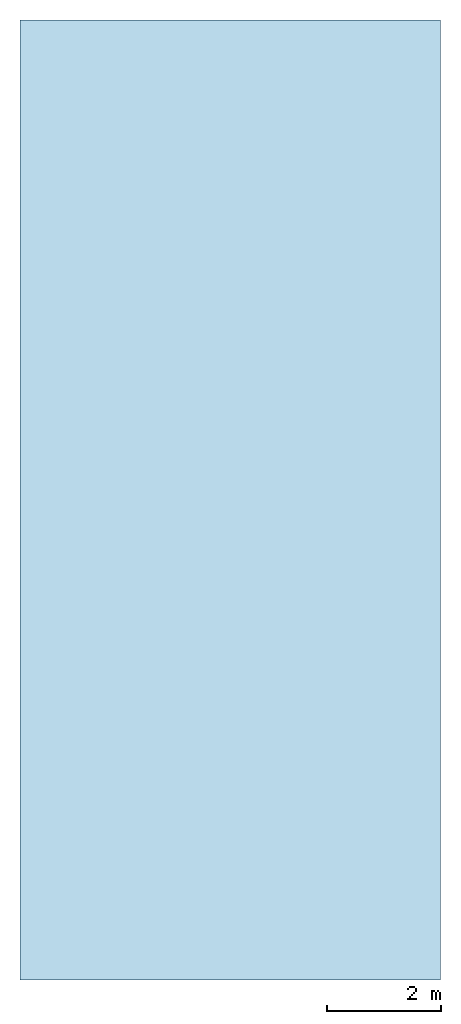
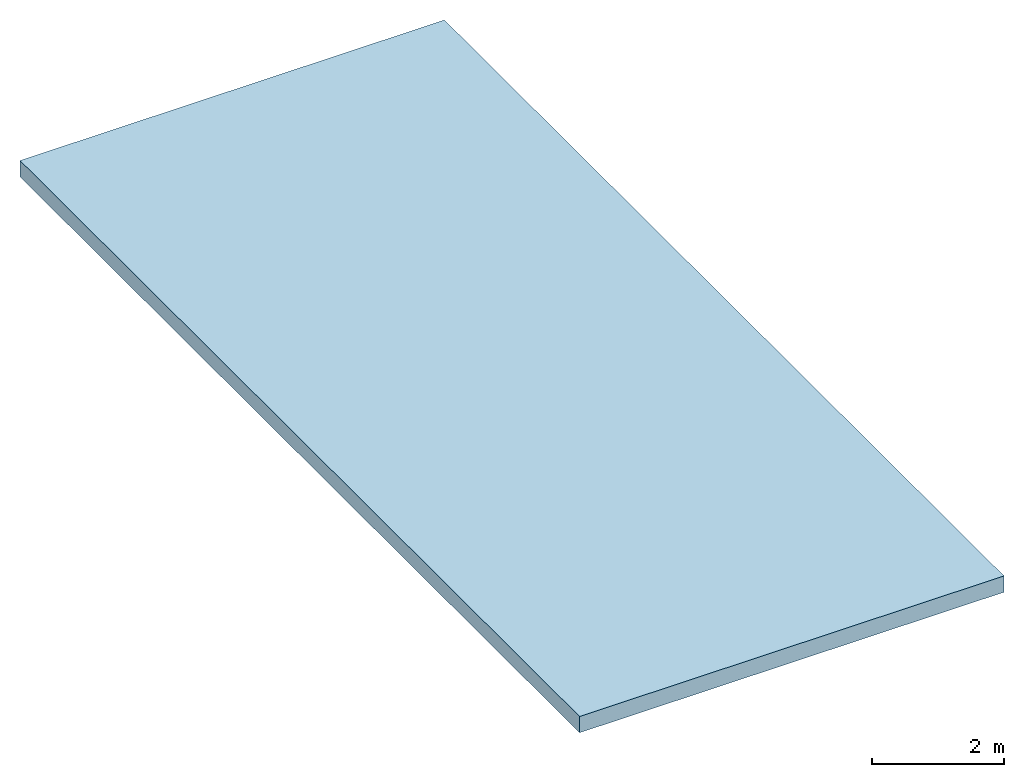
# One storey: 1 slab.
"""IFC2X3 building model written with IfcOpenShell, lengths in metres."""

from ifc_helpers import new_model, entity, si_unit, converted_unit, derived_unit, direction, frame, origin, origin_2d_with_axis, place, context, subcontext, project, spatial, rectangle, extrude, material, layer, layer_set, layer_usage, type_object, element, save


model = new_model("IFC2X3")

# Units and contexts
model_context = context("Model", 3, precision=1e-05, world=origin(), true_north=direction((6.12303176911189e-17, 1.0)))
body_context = subcontext(model_context, "Body", "Model", "MODEL_VIEW")
ifc_project = project(units=[si_unit("LENGTHUNIT", "METRE"), si_unit("AREAUNIT", "SQUARE_METRE"), si_unit("VOLUMEUNIT", "CUBIC_METRE"), converted_unit("PLANEANGLEUNIT", "DEGREE", entity("IfcRatioMeasure", 0.0174532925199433), si_unit("PLANEANGLEUNIT", "RADIAN"), dimensions=[0, 0, 0, 0, 0, 0, 0]), si_unit("MASSUNIT", "GRAM", prefix="KILO"), derived_unit("MASSDENSITYUNIT", [(si_unit("MASSUNIT", "GRAM", prefix="KILO"), 1), (si_unit("LENGTHUNIT", "METRE"), -3)]), derived_unit("MOMENTOFINERTIAUNIT", [(si_unit("LENGTHUNIT", "METRE"), 4)]), si_unit("TIMEUNIT", "SECOND"), si_unit("FREQUENCYUNIT", "HERTZ"), si_unit("THERMODYNAMICTEMPERATUREUNIT", "DEGREE_CELSIUS"), derived_unit("THERMALTRANSMITTANCEUNIT", [(si_unit("MASSUNIT", "GRAM", prefix="KILO"), 1), (si_unit("THERMODYNAMICTEMPERATUREUNIT", "KELVIN"), -1), (si_unit("TIMEUNIT", "SECOND"), -3)]), derived_unit("VOLUMETRICFLOWRATEUNIT", [(si_unit("LENGTHUNIT", "METRE"), 3), (si_unit("TIMEUNIT", "SECOND"), -1)]), si_unit("ELECTRICCURRENTUNIT", "AMPERE"), si_unit("ELECTRICVOLTAGEUNIT", "VOLT"), si_unit("POWERUNIT", "WATT"), si_unit("FORCEUNIT", "NEWTON", prefix="KILO"), si_unit("ILLUMINANCEUNIT", "LUX"), si_unit("LUMINOUSFLUXUNIT", "LUMEN"), si_unit("LUMINOUSINTENSITYUNIT", "CANDELA"), derived_unit("USERDEFINED", [(si_unit("MASSUNIT", "GRAM", prefix="KILO"), -1), (si_unit("LENGTHUNIT", "METRE"), -2), (si_unit("TIMEUNIT", "SECOND"), 3), (si_unit("LUMINOUSFLUXUNIT", "LUMEN"), 1)]), derived_unit("LINEARVELOCITYUNIT", [(si_unit("LENGTHUNIT", "METRE"), 1), (si_unit("TIMEUNIT", "SECOND"), -1)]), si_unit("PRESSUREUNIT", "PASCAL"), derived_unit("USERDEFINED", [(si_unit("LENGTHUNIT", "METRE"), -2), (si_unit("MASSUNIT", "GRAM", prefix="KILO"), 1), (si_unit("TIMEUNIT", "SECOND"), -2)]), derived_unit("LINEARFORCEUNIT", [(si_unit("MASSUNIT", "GRAM", prefix="KILO"), 1), (si_unit("LENGTHUNIT", "METRE"), 1), (si_unit("TIMEUNIT", "SECOND"), -2), (si_unit("LENGTHUNIT", "METRE"), -1)]), derived_unit("PLANARFORCEUNIT", [(si_unit("MASSUNIT", "GRAM", prefix="KILO"), 1), (si_unit("LENGTHUNIT", "METRE"), 1), (si_unit("TIMEUNIT", "SECOND"), -2), (si_unit("LENGTHUNIT", "METRE"), -2)])], contexts=[model_context])

# Site, building, storey
site_placement = place(None, origin())
site = spatial("IfcSite", under=ifc_project, at=site_placement, Name="Default", CompositionType="ELEMENT")
building_placement = place(site_placement, origin())
building = spatial("IfcBuilding", under=site, at=building_placement, CompositionType="ELEMENT")
storey_placement = place(building_placement, frame((0.0, 0.0, 3.0)))
storey = spatial("IfcBuildingStorey", under=building, at=storey_placement, Name="Nivel 2", CompositionType="ELEMENT", Elevation=3.0)

# Slab
ifc_material = material(Name="Suelos por defecto")
ifc_layer = layer(ifc_material, 0.3)
ifc_layer_set = layer_set([ifc_layer], Name="Suelo:Por defecto - 30 cm")
ifc_layer_usage = layer_usage(ifc_layer_set, "AXIS3", "POSITIVE", 0.0)
slab_type = type_object("IfcSlabType", Name="Suelo:Por defecto - 30 cm", PredefinedType="FLOOR", material=ifc_layer_set)
slab_placement = place(storey_placement, origin())
element("IfcSlab", 1, at=slab_placement, inside=storey, type_object=slab_type, material=ifc_layer_usage, Name="Suelo:Por defecto - 30 cm", ObjectType="Suelo:Por defecto - 30 cm", PredefinedType="FLOOR", context=body_context, shape_type="SweptSolid", body=[
    extrude(rectangle(XDim=16.9, YDim=7.4, at=origin_2d_with_axis()), frame((-0.483043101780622, 0.934982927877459, 0.3), z_axis=(0.0, 0.0, -1.0), x_axis=(0.0, 1.0, 0.0)), (0.0, 0.0, 1.0), 0.3),
])

save(model, "model.ifc")
